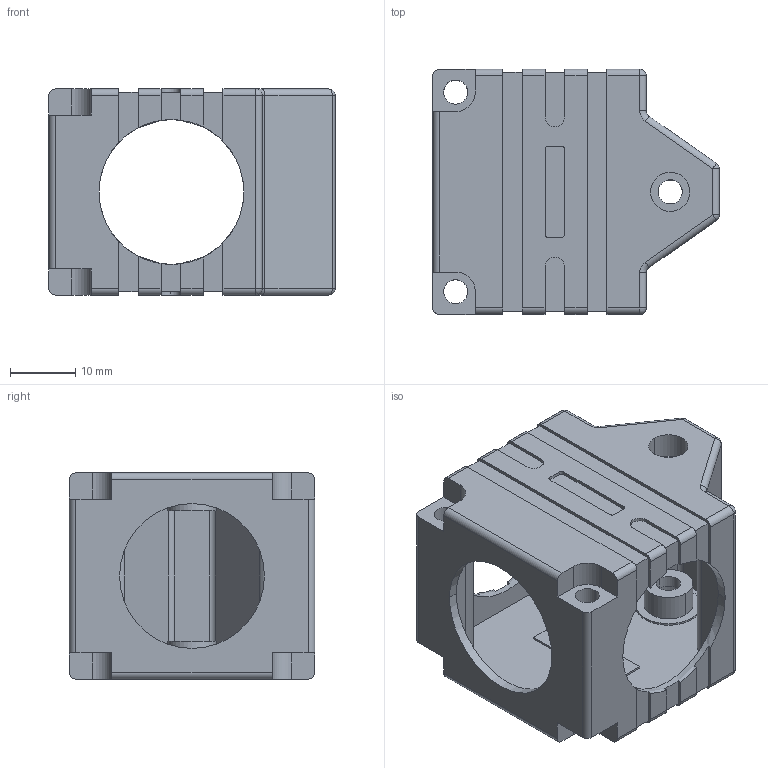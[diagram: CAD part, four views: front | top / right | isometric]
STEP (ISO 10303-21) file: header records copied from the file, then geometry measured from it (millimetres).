
FILE_DESCRIPTION (( 'STEP AP203' ), '1' );
FILE_NAME ('MB-MINITEE.step', '2013-06-13T20:00:21', ( 'Turck User' ), ( '' ), 'SwSTEP 2.0', 'SolidWorks 2013', '' );
FILE_SCHEMA (( 'CONFIG_CONTROL_DESIGN' ));
Length unit declared in the file: millimetre
Products named in the file (1): MB-MINITEE
Bounding box: 43.9 x 37.6 x 31.6 mm (x, y, z)
Volume: 9283.1 mm3; surface area: 12690.5 mm2
Topology: 1 solids, 1 shells, 213 faces, 576 edges, 368 vertices
Faces by surface type: plane 113, cylinder 88, sphere 8, torus 4
Entity records: 6771 total; most frequent: DIRECTION 1204, CARTESIAN_POINT 1154, ORIENTED_EDGE 1144, EDGE_CURVE 572, AXIS2_PLACEMENT_3D 418, LINE 368, VERTEX_POINT 368, VECTOR 368
